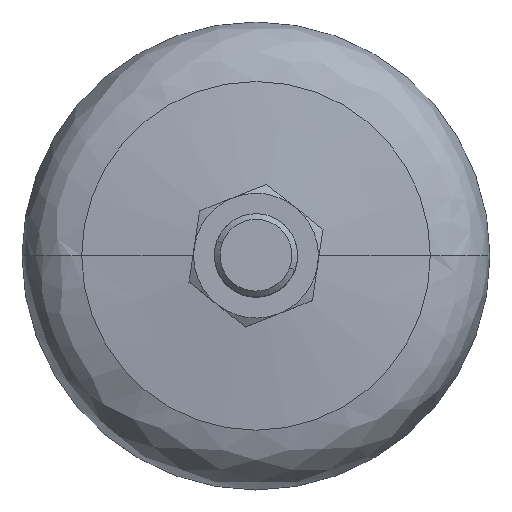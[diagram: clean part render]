
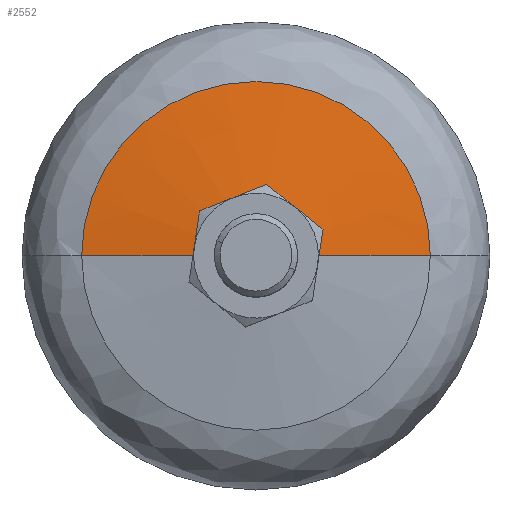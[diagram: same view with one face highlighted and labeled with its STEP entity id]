
A CAD part, top view. The second image highlights one B-rep face of the part: STEP entity #2552.
In plain terms, the highlighted conical face has half-angle 83.25 degrees and reference radius 33.528 mm.
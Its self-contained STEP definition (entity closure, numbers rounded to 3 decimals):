
#400 = ORIENTED_EDGE ( 'NONE', *, *, #7732, .F. ) ;
#1108 = CARTESIAN_POINT ( 'NONE',  ( -13.701, -11.411, 37.084 ) ) ;
#1223 = CARTESIAN_POINT ( 'NONE',  ( -39.809, -11.411, 40.174 ) ) ;
#1980 = VECTOR ( 'NONE', #10651, 1000. ) ;
#2148 = ORIENTED_EDGE ( 'NONE', *, *, #5102, .T. ) ;
#2170 = CIRCLE ( 'NONE', #10927, 33.528 ) ;
#2214 = CARTESIAN_POINT ( 'NONE',  ( -80.757, -11.411, 37.084 ) ) ;
#2552 = ADVANCED_FACE ( 'NONE', ( #9040 ), #5447, .T. ) ;
#2678 = VERTEX_POINT ( 'NONE', #3084 ) ;
#3022 = CARTESIAN_POINT ( 'NONE',  ( -47.229, -11.411, 40.174 ) ) ;
#3072 = AXIS2_PLACEMENT_3D ( 'NONE', #3838, #10865, #5654 ) ;
#3084 = CARTESIAN_POINT ( 'NONE',  ( -43.651, -4.911, 40.174 ) ) ;
#3139 = VERTEX_POINT ( 'NONE', #11218 ) ;
#3142 = AXIS2_PLACEMENT_3D ( 'NONE', #4399, #7030, #7892 ) ;
#3724 = DIRECTION ( 'NONE',  ( 0., 0., -1. ) ) ;
#3829 = AXIS2_PLACEMENT_3D ( 'NONE', #3022, #4494, #9770 ) ;
#3838 = CARTESIAN_POINT ( 'NONE',  ( -47.229, -11.411, 40.174 ) ) ;
#3973 = EDGE_CURVE ( 'NONE', #9251, #9928, #5738, .T. ) ;
#3982 = CIRCLE ( 'NONE', #3072, 7.42 ) ;
#4399 = CARTESIAN_POINT ( 'NONE',  ( -47.229, -11.411, 40.174 ) ) ;
#4494 = DIRECTION ( 'NONE',  ( 0., 0., -1. ) ) ;
#4586 = ORIENTED_EDGE ( 'NONE', *, *, #3973, .F. ) ;
#4782 = CARTESIAN_POINT ( 'NONE',  ( -54.648, -11.411, 40.174 ) ) ;
#5043 = DIRECTION ( 'NONE',  ( 1., 0., 0. ) ) ;
#5102 = EDGE_CURVE ( 'NONE', #2678, #6084, #7104, .T. ) ;
#5447 = CONICAL_SURFACE ( 'NONE', #9478, 33.528, 1.453 ) ;
#5545 = LINE ( 'NONE', #1108, #1980 ) ;
#5654 = DIRECTION ( 'NONE',  ( -1., 0., 0. ) ) ;
#5687 = DIRECTION ( 'NONE',  ( -0.993, 0., -0.118 ) ) ;
#5738 = LINE ( 'NONE', #2214, #5851 ) ;
#5787 = CARTESIAN_POINT ( 'NONE',  ( -47.229, -11.411, 37.084 ) ) ;
#5851 = VECTOR ( 'NONE', #5687, 1000. ) ;
#6084 = VERTEX_POINT ( 'NONE', #1223 ) ;
#6193 = ORIENTED_EDGE ( 'NONE', *, *, #6378, .T. ) ;
#6378 = EDGE_CURVE ( 'NONE', #3139, #2678, #6970, .T. ) ;
#6653 = VERTEX_POINT ( 'NONE', #7054 ) ;
#6970 = CIRCLE ( 'NONE', #3142, 7.42 ) ;
#7030 = DIRECTION ( 'NONE',  ( 0., 0., -1. ) ) ;
#7054 = CARTESIAN_POINT ( 'NONE',  ( -13.701, -11.411, 37.084 ) ) ;
#7085 = CARTESIAN_POINT ( 'NONE',  ( -80.757, -11.411, 37.084 ) ) ;
#7104 = CIRCLE ( 'NONE', #3829, 7.42 ) ;
#7265 = EDGE_CURVE ( 'NONE', #9251, #3139, #3982, .T. ) ;
#7732 = EDGE_CURVE ( 'NONE', #9928, #6653, #2170, .T. ) ;
#7892 = DIRECTION ( 'NONE',  ( -1., 0., 0. ) ) ;
#8170 = DIRECTION ( 'NONE',  ( -1., 0., 0. ) ) ;
#8247 = EDGE_CURVE ( 'NONE', #6084, #6653, #5545, .T. ) ;
#8971 = ORIENTED_EDGE ( 'NONE', *, *, #7265, .T. ) ;
#9040 = FACE_OUTER_BOUND ( 'NONE', #10772, .T. ) ;
#9251 = VERTEX_POINT ( 'NONE', #4782 ) ;
#9292 = DIRECTION ( 'NONE',  ( 0., 0., -1. ) ) ;
#9478 = AXIS2_PLACEMENT_3D ( 'NONE', #9664, #3724, #8170 ) ;
#9664 = CARTESIAN_POINT ( 'NONE',  ( -47.229, -11.411, 37.084 ) ) ;
#9770 = DIRECTION ( 'NONE',  ( -1., 0., 0. ) ) ;
#9928 = VERTEX_POINT ( 'NONE', #7085 ) ;
#10651 = DIRECTION ( 'NONE',  ( 0.993, 0., -0.118 ) ) ;
#10772 = EDGE_LOOP ( 'NONE', ( #2148, #10981, #400, #4586, #8971, #6193 ) ) ;
#10865 = DIRECTION ( 'NONE',  ( 0., 0., -1. ) ) ;
#10927 = AXIS2_PLACEMENT_3D ( 'NONE', #5787, #9292, #5043 ) ;
#10981 = ORIENTED_EDGE ( 'NONE', *, *, #8247, .T. ) ;
#11218 = CARTESIAN_POINT ( 'NONE',  ( -50.807, -4.911, 40.174 ) ) ;
